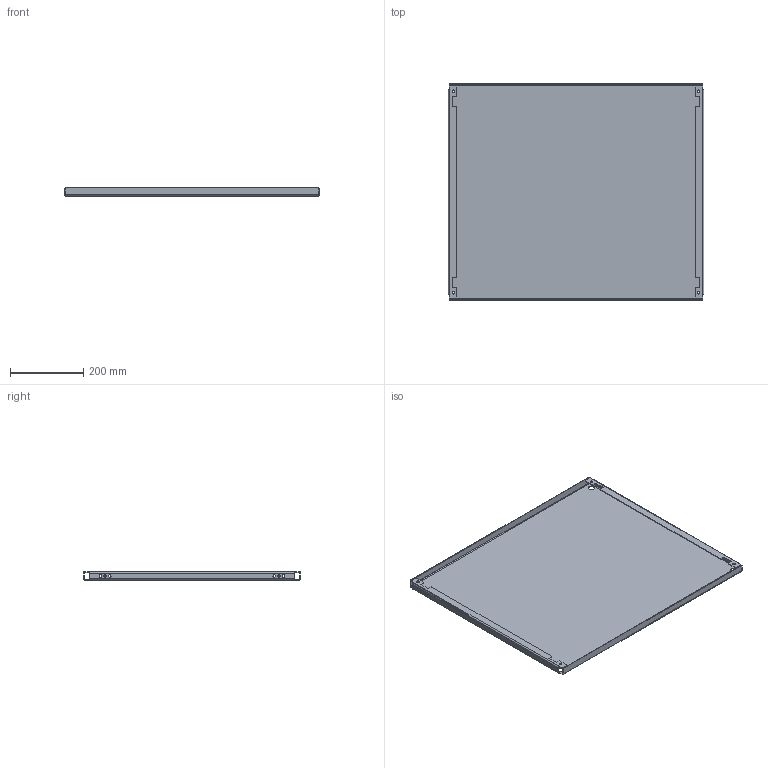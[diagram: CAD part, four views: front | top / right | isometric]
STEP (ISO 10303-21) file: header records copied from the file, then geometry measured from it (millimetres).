
FILE_DESCRIPTION(('STEP AP203'), '1');
FILE_NAME('3550 Ñåêöèîííàÿ ìîíòàæíàÿ ïàíåëü', '', ('UNSPECIFIED'), ('UNSPECIFIED'), 'C3D Converter', 'C3D Toolkit', '');
FILE_SCHEMA(('CONFIG_CONTROL_DESIGN'));
Length unit declared in the file: millimetre
Products named in the file (1): 3550.60.80
Bounding box: 700 x 592 x 22 mm (x, y, z)
Volume: 963289.2 mm3; surface area: 970414.9 mm2
Topology: 1 solids, 1 shells, 118 faces, 300 edges, 184 vertices
Faces by surface type: plane 66, cylinder 52
Full cylindrical faces by diameter (mm): 7 x12, 8 x4, 17 x4
Entity records: 3544 total; most frequent: DIRECTION 622, CARTESIAN_POINT 583, ORIENTED_EDGE 560, EDGE_CURVE 280, AXIS2_PLACEMENT_3D 223, VERTEX_POINT 184, EDGE_LOOP 178, LINE 176
